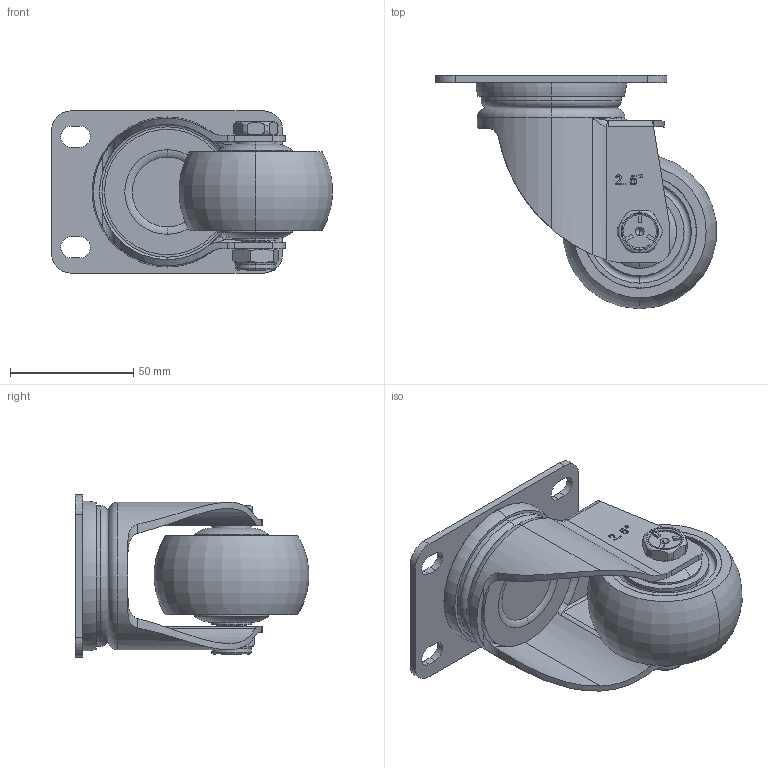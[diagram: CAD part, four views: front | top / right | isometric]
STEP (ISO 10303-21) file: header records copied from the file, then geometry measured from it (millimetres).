
FILE_DESCRIPTION (( 'STEP AP203' ), '1' );
FILE_NAME ('2.5寸平底万向.STEP', '2024-03-19T03:32:32', ( '微软用户' ), ( '微软中国' ), 'SwSTEP 2.0', 'SolidWorks 2008', '' );
FILE_SCHEMA (( 'CONFIG_CONTROL_DESIGN' ));
Length unit declared in the file: millimetre
Products named in the file (7): 2.5渡す菁勀砃; 底板_默认; 中型2.5寸轮_默认; 40.2mm中型中管_默认; M10-55蹟裝; M10蹟譫; 2023-3-8  中型2.5寸万向支架_默认
Assembly tree (6 placements, depth 2):
  2.5渡す菁勀砃
    M10-55蹟裝
    M10蹟譫
    2023-3-8  中型2.5寸万向支架_默认
    中型2.5寸轮_默认
    底板_默认
    40.2mm中型中管_默认
Bounding box: 114.18 x 94.92 x 66 mm (x, y, z)
Volume: 176532.1 mm3; surface area: 61687.1 mm2
Topology: 6 solids, 6 shells, 490 faces, 1256 edges, 815 vertices
Faces by surface type: plane 196, cylinder 135, bspline 99, torus 44, cone 16
Entity records: 21689 total; most frequent: CARTESIAN_POINT 9751, ORIENTED_EDGE 2504, DIRECTION 2040, EDGE_CURVE 1252, VERTEX_POINT 815, AXIS2_PLACEMENT_3D 709, VECTOR 622, LINE 622
